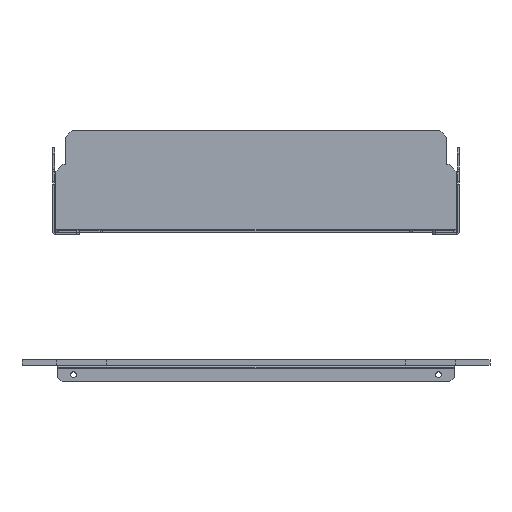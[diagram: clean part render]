
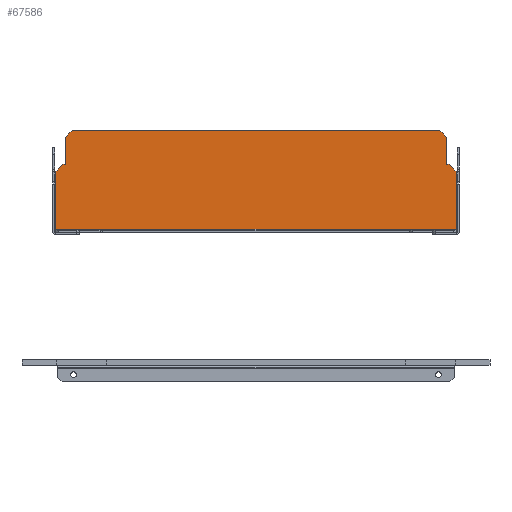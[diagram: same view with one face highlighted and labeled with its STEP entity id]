
A CAD part, front view. The second image highlights one B-rep face of the part: STEP entity #67586.
In plain terms, the highlighted planar face has unit normal (0, -1, 0).
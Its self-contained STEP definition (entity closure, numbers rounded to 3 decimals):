
#63686=CARTESIAN_POINT(' ',(147.5,-1.5,0.6));
#63687=VERTEX_POINT(' ',#63686);
#63916=CARTESIAN_POINT(' ',(147.5,-1.5,0.6));
#63921=DIRECTION(' ',(-1.,0.,0.));
#63926=VECTOR(' ',#63921,1.);
#63931=LINE('',#63916,#63926);
#63936=CARTESIAN_POINT(' ',(-147.5,-1.5,0.6));
#63937=VERTEX_POINT(' ',#63936);
#63941=EDGE_CURVE(' ',#63687,#63937,#63931,.T.);
#67131=CARTESIAN_POINT(' ',(147.5,-1.5,43.5));
#67132=VERTEX_POINT(' ',#67131);
#67146=CARTESIAN_POINT(' ',(147.5,-1.5,43.5));
#67151=DIRECTION(' ',(0.,0.,-1.));
#67156=VECTOR(' ',#67151,1.);
#67161=LINE('',#67146,#67156);
#67166=EDGE_CURVE(' ',#67132,#63687,#67161,.T.);
#67196=DIRECTION(' ',(0.,-1.,0.));
#67201=CARTESIAN_POINT(' ',(-147.5,-1.5,73.5));
#67206=DIRECTION(' ',(0.,0.,-1.));
#67211=AXIS2_PLACEMENT_3D(' ',#67201,#67196,#67206);
#67216=PLANE('NONE',#67211);
#67221=ORIENTED_EDGE(' ',*,*,#67166,.F.);
#67226=CARTESIAN_POINT(' ',(147.5,-1.5,43.5));
#67231=DIRECTION(' ',(-0.707,0.,0.707));
#67236=VECTOR(' ',#67231,1.);
#67241=LINE('',#67226,#67236);
#67246=CARTESIAN_POINT(' ',(142.5,-1.5,48.5));
#67247=VERTEX_POINT(' ',#67246);
#67251=EDGE_CURVE(' ',#67132,#67247,#67241,.T.);
#67256=ORIENTED_EDGE(' ',*,*,#67251,.T.);
#67261=CARTESIAN_POINT(' ',(140.5,-1.5,48.5));
#67266=DIRECTION(' ',(1.,0.,0.));
#67271=VECTOR(' ',#67266,1.);
#67276=LINE('',#67261,#67271);
#67281=CARTESIAN_POINT(' ',(140.5,-1.5,48.5));
#67282=VERTEX_POINT(' ',#67281);
#67286=EDGE_CURVE(' ',#67282,#67247,#67276,.T.);
#67291=ORIENTED_EDGE(' ',*,*,#67286,.F.);
#67296=CARTESIAN_POINT(' ',(140.5,-1.5,48.5));
#67301=DIRECTION(' ',(0.,0.,1.));
#67306=VECTOR(' ',#67301,1.);
#67311=LINE('',#67296,#67306);
#67316=CARTESIAN_POINT(' ',(140.5,-1.5,68.5));
#67317=VERTEX_POINT(' ',#67316);
#67321=EDGE_CURVE(' ',#67282,#67317,#67311,.T.);
#67326=ORIENTED_EDGE(' ',*,*,#67321,.T.);
#67331=CARTESIAN_POINT(' ',(140.5,-1.5,68.5));
#67336=DIRECTION(' ',(-0.707,0.,0.707));
#67341=VECTOR(' ',#67336,1.);
#67346=LINE('',#67331,#67341);
#67351=CARTESIAN_POINT(' ',(135.5,-1.5,73.5));
#67352=VERTEX_POINT(' ',#67351);
#67356=EDGE_CURVE(' ',#67317,#67352,#67346,.T.);
#67361=ORIENTED_EDGE(' ',*,*,#67356,.T.);
#67366=CARTESIAN_POINT(' ',(135.5,-1.5,73.5));
#67371=DIRECTION(' ',(-1.,0.,0.));
#67376=VECTOR(' ',#67371,1.);
#67381=LINE('',#67366,#67376);
#67386=CARTESIAN_POINT(' ',(-135.5,-1.5,73.5));
#67387=VERTEX_POINT(' ',#67386);
#67391=EDGE_CURVE(' ',#67352,#67387,#67381,.T.);
#67396=ORIENTED_EDGE(' ',*,*,#67391,.T.);
#67401=CARTESIAN_POINT(' ',(-135.5,-1.5,73.5));
#67406=DIRECTION(' ',(-0.707,0.,-0.707));
#67411=VECTOR(' ',#67406,1.);
#67416=LINE('',#67401,#67411);
#67421=CARTESIAN_POINT(' ',(-140.5,-1.5,68.5));
#67422=VERTEX_POINT(' ',#67421);
#67426=EDGE_CURVE(' ',#67387,#67422,#67416,.T.);
#67431=ORIENTED_EDGE(' ',*,*,#67426,.T.);
#67436=CARTESIAN_POINT(' ',(-140.5,-1.5,48.5));
#67441=DIRECTION(' ',(0.,0.,1.));
#67446=VECTOR(' ',#67441,1.);
#67451=LINE('',#67436,#67446);
#67456=CARTESIAN_POINT(' ',(-140.5,-1.5,48.5));
#67457=VERTEX_POINT(' ',#67456);
#67461=EDGE_CURVE(' ',#67457,#67422,#67451,.T.);
#67466=ORIENTED_EDGE(' ',*,*,#67461,.F.);
#67471=CARTESIAN_POINT(' ',(-140.5,-1.5,48.5));
#67476=DIRECTION(' ',(-1.,0.,0.));
#67481=VECTOR(' ',#67476,1.);
#67486=LINE('',#67471,#67481);
#67491=CARTESIAN_POINT(' ',(-142.5,-1.5,48.5));
#67492=VERTEX_POINT(' ',#67491);
#67496=EDGE_CURVE(' ',#67457,#67492,#67486,.T.);
#67501=ORIENTED_EDGE(' ',*,*,#67496,.T.);
#67506=CARTESIAN_POINT(' ',(-142.5,-1.5,48.5));
#67511=DIRECTION(' ',(-0.707,0.,-0.707));
#67516=VECTOR(' ',#67511,1.);
#67521=LINE('',#67506,#67516);
#67526=CARTESIAN_POINT(' ',(-147.5,-1.5,43.5));
#67527=VERTEX_POINT(' ',#67526);
#67531=EDGE_CURVE(' ',#67492,#67527,#67521,.T.);
#67536=ORIENTED_EDGE(' ',*,*,#67531,.T.);
#67541=CARTESIAN_POINT(' ',(-147.5,-1.5,0.6));
#67546=DIRECTION(' ',(0.,0.,1.));
#67551=VECTOR(' ',#67546,1.);
#67556=LINE('',#67541,#67551);
#67561=EDGE_CURVE(' ',#63937,#67527,#67556,.T.);
#67566=ORIENTED_EDGE(' ',*,*,#67561,.F.);
#67571=ORIENTED_EDGE(' ',*,*,#63941,.F.);
#67576=EDGE_LOOP(' ',(#67221,#67256,#67291,#67326,#67361,#67396,#67431,#67466,#67501,#67536,#67566,#67571));
#67581=FACE_OUTER_BOUND(' ',#67576,.T.);
#67586=ADVANCED_FACE('NONE',(#67581),#67216,.T.);
